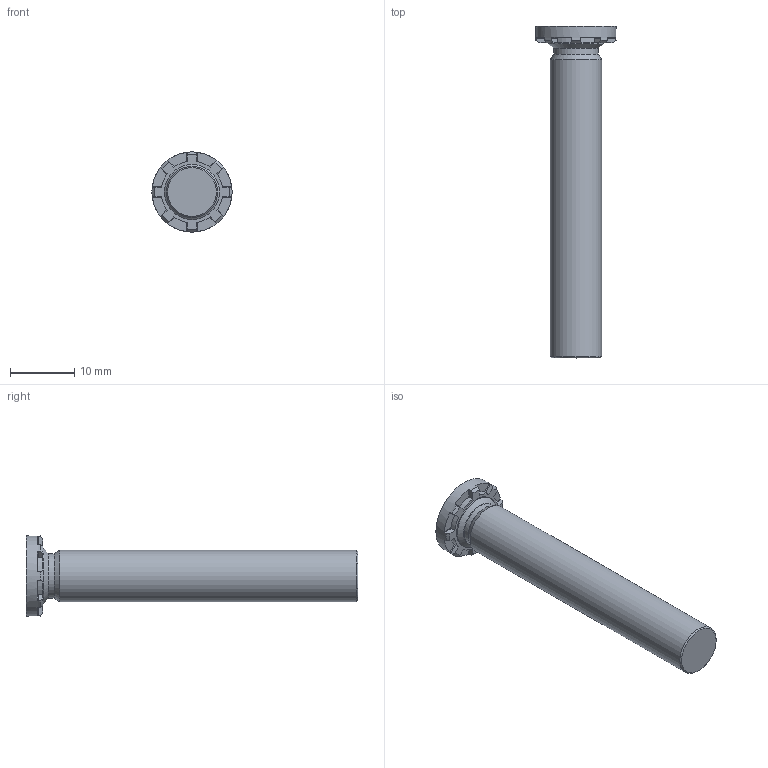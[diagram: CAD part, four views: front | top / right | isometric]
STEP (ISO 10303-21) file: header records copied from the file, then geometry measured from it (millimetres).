
FILE_DESCRIPTION(/* description */ (''),/* implementation_level */ '2;1');
FILE_NAME(/* name */ 'C:\Users\keval.kumar\Desktop\Fastit\Clinch Screw- HFH Range\M8\Clinch Screw-HFH Range_M8x50.stp',/* time_stamp */ '2024-03-12T15:21:12+06:00',/* author */ ('keval.kumar'),/* organization */ (''),/* preprocessor_version */ 'ST-DEVELOPER v18.1',/* originating_system */ 'Autodesk Inventor 2022',/* authorisation */ '');
FILE_SCHEMA (('AUTOMOTIVE_DESIGN { 1 0 10303 214 3 1 1 }'));
Length unit declared in the file: millimetre
Products named in the file (1): Clinch Screw-HFH Range_M8x50
Bounding box: 12.5 x 51.78 x 12.5 mm (x, y, z)
Volume: 2746.7 mm3; surface area: 1587.5 mm2
Topology: 1 solids, 1 shells, 68 faces, 193 edges, 128 vertices
Faces by surface type: plane 43, cylinder 12, cone 11, torus 2
Full cylindrical faces by diameter (mm): 7 x1, 8 x1, 8.6 x1, 12.5 x1
Entity records: 2278 total; most frequent: CARTESIAN_POINT 422, DIRECTION 405, ORIENTED_EDGE 386, EDGE_CURVE 193, AXIS2_PLACEMENT_3D 159, VERTEX_POINT 128, LINE 87, VECTOR 87
